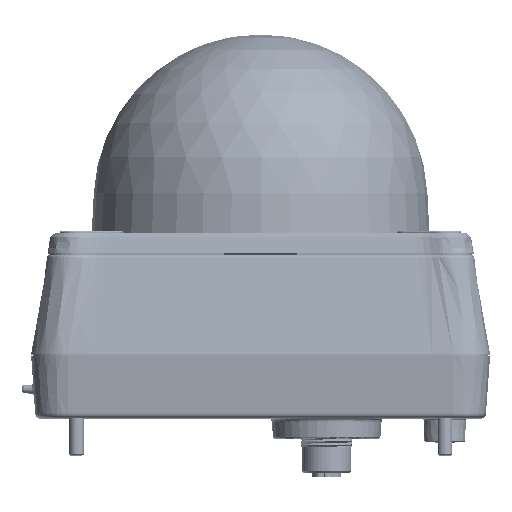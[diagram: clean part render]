
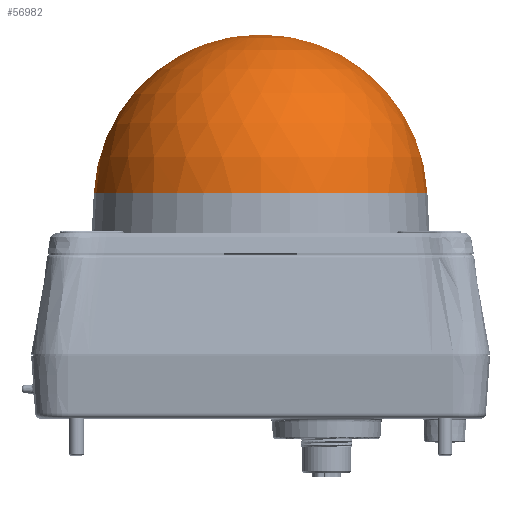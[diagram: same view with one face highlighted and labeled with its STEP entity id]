
A CAD part, top view. The second image highlights one B-rep face of the part: STEP entity #56982.
In plain terms, the highlighted spherical face has radius 45.5 mm.
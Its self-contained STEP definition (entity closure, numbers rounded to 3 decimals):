
#56676=CARTESIAN_POINT('',(0.,0.932,0.));
#56677=DIRECTION('',(0.,1.,0.));
#56678=DIRECTION('',(-1.,0.,0.));
#56679=AXIS2_PLACEMENT_3D('',#56676,#56677,#56678);
#56681=CARTESIAN_POINT('',(0.,-1.4,0.));
#56682=DIRECTION('',(0.,0.,-1.));
#56683=DIRECTION('',(-0.999,0.051,0.));
#56684=AXIS2_PLACEMENT_3D('',#56681,#56682,#56683);
#56691=CARTESIAN_POINT('',(0.,-1.4,0.));
#56692=DIRECTION('',(0.,0.,-1.));
#56693=DIRECTION('',(0.,1.,0.));
#56694=AXIS2_PLACEMENT_3D('',#56691,#56692,#56693);
#56736=CARTESIAN_POINT('',(45.44,0.932,0.));
#56737=VERTEX_POINT('',#56736);
#56738=CARTESIAN_POINT('',(-45.44,0.932,
0.));
#56739=VERTEX_POINT('',#56738);
#56744=CARTESIAN_POINT('',(0.,44.1,0.));
#56745=VERTEX_POINT('',#56744);
#56970=CARTESIAN_POINT('',(0.,-1.4,0.));
#56971=DIRECTION('',(0.,1.,0.));
#56972=DIRECTION('',(1.,0.,0.));
#56973=AXIS2_PLACEMENT_3D('',#56970,#56971,#56972);
#56974=SPHERICAL_SURFACE('',#56973,45.5);
#56976=ORIENTED_EDGE('',*,*,#56975,.T.);
#56977=ORIENTED_EDGE('',*,*,#56965,.F.);
#56979=ORIENTED_EDGE('',*,*,#56978,.T.);
#56980=EDGE_LOOP('',(#56976,#56977,#56979));
#56981=FACE_OUTER_BOUND('',#56980,.F.);
#56982=ADVANCED_FACE('',(#56981),#56974,.T.);
#56680=CIRCLE('',#56679,45.44);
#56685=CIRCLE('',#56684,45.5);
#56695=CIRCLE('',#56694,45.5);
#56965=EDGE_CURVE('',#56739,#56737,#56680,.T.);
#56975=EDGE_CURVE('',#56745,#56737,#56695,.T.);
#56978=EDGE_CURVE('',#56739,#56745,#56685,.T.);
